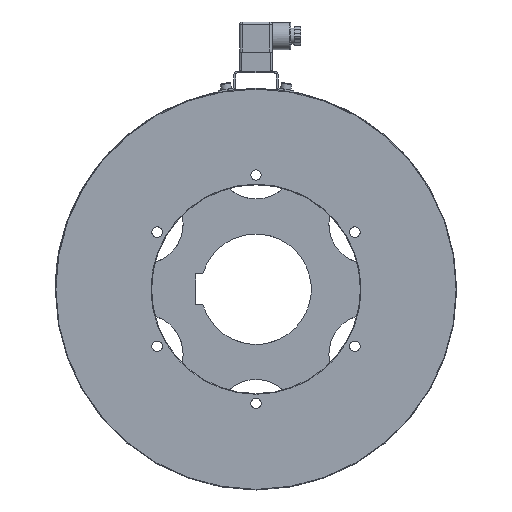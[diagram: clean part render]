
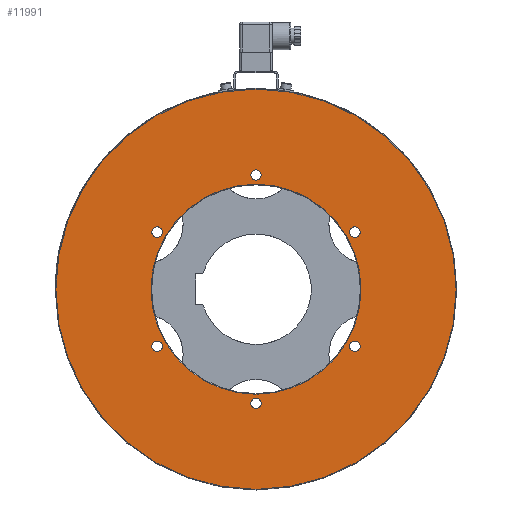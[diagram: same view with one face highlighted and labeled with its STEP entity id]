
A CAD part, left-side view. The second image highlights one B-rep face of the part: STEP entity #11991.
In plain terms, the highlighted planar face has unit normal (-1, 0, 0).
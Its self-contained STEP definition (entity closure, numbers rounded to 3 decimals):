
#151=FACE_BOUND('',#1258,.T.);
#152=FACE_BOUND('',#1259,.T.);
#153=FACE_BOUND('',#1260,.T.);
#154=FACE_BOUND('',#1261,.T.);
#155=FACE_BOUND('',#1262,.T.);
#156=FACE_BOUND('',#1263,.T.);
#157=FACE_BOUND('',#1264,.T.);
#318=PLANE('',#12794);
#617=FACE_OUTER_BOUND('',#1257,.T.);
#1257=EDGE_LOOP('',(#7955,#7956,#7957));
#1258=EDGE_LOOP('',(#7958,#7959));
#1259=EDGE_LOOP('',(#7960,#7961));
#1260=EDGE_LOOP('',(#7962,#7963));
#1261=EDGE_LOOP('',(#7964,#7965));
#1262=EDGE_LOOP('',(#7966,#7967));
#1263=EDGE_LOOP('',(#7968,#7969));
#1264=EDGE_LOOP('',(#7970));
#1932=CIRCLE('',#12558,163.);
#1933=CIRCLE('',#12559,163.);
#1984=CIRCLE('',#12671,163.);
#2075=CIRCLE('',#12768,85.5);
#2078=CIRCLE('',#12773,4.25);
#2079=CIRCLE('',#12774,4.25);
#2080=CIRCLE('',#12776,4.25);
#2081=CIRCLE('',#12777,4.25);
#2082=CIRCLE('',#12779,4.25);
#2083=CIRCLE('',#12780,4.25);
#2084=CIRCLE('',#12782,4.25);
#2085=CIRCLE('',#12783,4.25);
#2086=CIRCLE('',#12785,4.25);
#2087=CIRCLE('',#12786,4.25);
#2088=CIRCLE('',#12788,4.25);
#2089=CIRCLE('',#12789,4.25);
#4348=VERTEX_POINT('',#18379);
#4354=VERTEX_POINT('',#18391);
#4355=VERTEX_POINT('',#18393);
#4566=VERTEX_POINT('',#19139);
#4569=VERTEX_POINT('',#19149);
#4570=VERTEX_POINT('',#19150);
#4571=VERTEX_POINT('',#19155);
#4572=VERTEX_POINT('',#19156);
#4573=VERTEX_POINT('',#19161);
#4574=VERTEX_POINT('',#19162);
#4575=VERTEX_POINT('',#19167);
#4576=VERTEX_POINT('',#19168);
#4577=VERTEX_POINT('',#19173);
#4578=VERTEX_POINT('',#19174);
#4579=VERTEX_POINT('',#19179);
#4580=VERTEX_POINT('',#19180);
#5603=EDGE_CURVE('',#4355,#4354,#1932,.T.);
#5604=EDGE_CURVE('',#4348,#4355,#1933,.T.);
#5779=EDGE_CURVE('',#4354,#4348,#1984,.T.);
#5877=EDGE_CURVE('',#4566,#4566,#2075,.T.);
#5881=EDGE_CURVE('',#4569,#4570,#2078,.T.);
#5882=EDGE_CURVE('',#4570,#4569,#2079,.T.);
#5884=EDGE_CURVE('',#4571,#4572,#2080,.T.);
#5885=EDGE_CURVE('',#4572,#4571,#2081,.T.);
#5887=EDGE_CURVE('',#4573,#4574,#2082,.T.);
#5888=EDGE_CURVE('',#4574,#4573,#2083,.T.);
#5890=EDGE_CURVE('',#4575,#4576,#2084,.T.);
#5891=EDGE_CURVE('',#4576,#4575,#2085,.T.);
#5893=EDGE_CURVE('',#4577,#4578,#2086,.T.);
#5894=EDGE_CURVE('',#4578,#4577,#2087,.T.);
#5896=EDGE_CURVE('',#4579,#4580,#2088,.T.);
#5897=EDGE_CURVE('',#4580,#4579,#2089,.T.);
#7955=ORIENTED_EDGE('',*,*,#5603,.T.);
#7956=ORIENTED_EDGE('',*,*,#5779,.T.);
#7957=ORIENTED_EDGE('',*,*,#5604,.T.);
#7958=ORIENTED_EDGE('',*,*,#5896,.T.);
#7959=ORIENTED_EDGE('',*,*,#5897,.T.);
#7960=ORIENTED_EDGE('',*,*,#5893,.T.);
#7961=ORIENTED_EDGE('',*,*,#5894,.T.);
#7962=ORIENTED_EDGE('',*,*,#5890,.T.);
#7963=ORIENTED_EDGE('',*,*,#5891,.T.);
#7964=ORIENTED_EDGE('',*,*,#5887,.T.);
#7965=ORIENTED_EDGE('',*,*,#5888,.T.);
#7966=ORIENTED_EDGE('',*,*,#5884,.T.);
#7967=ORIENTED_EDGE('',*,*,#5885,.T.);
#7968=ORIENTED_EDGE('',*,*,#5881,.T.);
#7969=ORIENTED_EDGE('',*,*,#5882,.T.);
#7970=ORIENTED_EDGE('',*,*,#5877,.F.);
#11991=ADVANCED_FACE('',(#617,#151,#152,#153,#154,#155,#156,#157),#318,
 .T.);
#12558=AXIS2_PLACEMENT_3D('',#18394,#14289,#14290);
#12559=AXIS2_PLACEMENT_3D('',#18395,#14291,#14292);
#12671=AXIS2_PLACEMENT_3D('',#18913,#14615,#14616);
#12768=AXIS2_PLACEMENT_3D('',#19141,#14815,#14816);
#12773=AXIS2_PLACEMENT_3D('',#19151,#14826,#14827);
#12774=AXIS2_PLACEMENT_3D('',#19152,#14828,#14829);
#12776=AXIS2_PLACEMENT_3D('',#19157,#14833,#14834);
#12777=AXIS2_PLACEMENT_3D('',#19158,#14835,#14836);
#12779=AXIS2_PLACEMENT_3D('',#19163,#14840,#14841);
#12780=AXIS2_PLACEMENT_3D('',#19164,#14842,#14843);
#12782=AXIS2_PLACEMENT_3D('',#19169,#14847,#14848);
#12783=AXIS2_PLACEMENT_3D('',#19170,#14849,#14850);
#12785=AXIS2_PLACEMENT_3D('',#19175,#14854,#14855);
#12786=AXIS2_PLACEMENT_3D('',#19176,#14856,#14857);
#12788=AXIS2_PLACEMENT_3D('',#19181,#14861,#14862);
#12789=AXIS2_PLACEMENT_3D('',#19182,#14863,#14864);
#12794=AXIS2_PLACEMENT_3D('',#19190,#14874,#14875);
#14289=DIRECTION('center_axis',(-1.,0.,0.));
#14290=DIRECTION('ref_axis',(0.,1.,0.));
#14291=DIRECTION('center_axis',(-1.,0.,0.));
#14292=DIRECTION('ref_axis',(0.,1.,0.));
#14615=DIRECTION('center_axis',(-1.,0.,0.));
#14616=DIRECTION('ref_axis',(0.,1.,0.));
#14815=DIRECTION('center_axis',(-1.,0.,0.));
#14816=DIRECTION('ref_axis',(0.,-1.,0.));
#14826=DIRECTION('center_axis',(1.,0.,0.));
#14827=DIRECTION('ref_axis',(0.,0.,
1.));
#14828=DIRECTION('center_axis',(1.,0.,0.));
#14829=DIRECTION('ref_axis',(0.,0.,
1.));
#14833=DIRECTION('center_axis',(1.,0.,0.));
#14834=DIRECTION('ref_axis',(0.,0.,
1.));
#14835=DIRECTION('center_axis',(1.,0.,0.));
#14836=DIRECTION('ref_axis',(0.,0.,
1.));
#14840=DIRECTION('center_axis',(1.,0.,0.));
#14841=DIRECTION('ref_axis',(0.,0.,
1.));
#14842=DIRECTION('center_axis',(1.,0.,0.));
#14843=DIRECTION('ref_axis',(0.,0.,
1.));
#14847=DIRECTION('center_axis',(1.,0.,0.));
#14848=DIRECTION('ref_axis',(0.,0.,
1.));
#14849=DIRECTION('center_axis',(1.,0.,0.));
#14850=DIRECTION('ref_axis',(0.,0.,
1.));
#14854=DIRECTION('center_axis',(1.,0.,0.));
#14855=DIRECTION('ref_axis',(0.,0.,
1.));
#14856=DIRECTION('center_axis',(1.,0.,0.));
#14857=DIRECTION('ref_axis',(0.,0.,
1.));
#14861=DIRECTION('center_axis',(1.,0.,0.));
#14862=DIRECTION('ref_axis',(0.,0.,
1.));
#14863=DIRECTION('center_axis',(1.,0.,0.));
#14864=DIRECTION('ref_axis',(0.,0.,
1.));
#14874=DIRECTION('center_axis',(-1.,0.,0.));
#14875=DIRECTION('ref_axis',(0.,0.,
1.));
#18379=CARTESIAN_POINT('',(-33.8,28.305,160.524));
#18391=CARTESIAN_POINT('',(-33.8,-163.,0.));
#18393=CARTESIAN_POINT('',(-33.8,163.,0.));
#18394=CARTESIAN_POINT('Origin',(-33.8,0.,0.));
#18395=CARTESIAN_POINT('Origin',(-33.8,0.,0.));
#18913=CARTESIAN_POINT('Origin',(-33.8,0.,0.));
#19139=CARTESIAN_POINT('',(-33.8,85.5,0.));
#19141=CARTESIAN_POINT('Origin',(-33.8,0.,0.));
#19149=CARTESIAN_POINT('',(-33.8,-80.54,50.75));
#19150=CARTESIAN_POINT('',(-33.8,-80.54,42.25));
#19151=CARTESIAN_POINT('Origin',(-33.8,-80.54,46.5));
#19152=CARTESIAN_POINT('Origin',(-33.8,-80.54,46.5));
#19155=CARTESIAN_POINT('',(-33.8,0.,-88.75));
#19156=CARTESIAN_POINT('',(-33.8,0.,-97.25));
#19157=CARTESIAN_POINT('Origin',(-33.8,0.,-93.));
#19158=CARTESIAN_POINT('Origin',(-33.8,0.,-93.));
#19161=CARTESIAN_POINT('',(-33.8,80.54,50.75));
#19162=CARTESIAN_POINT('',(-33.8,80.54,42.25));
#19163=CARTESIAN_POINT('Origin',(-33.8,80.54,46.5));
#19164=CARTESIAN_POINT('Origin',(-33.8,80.54,46.5));
#19167=CARTESIAN_POINT('',(-33.8,0.,97.25));
#19168=CARTESIAN_POINT('',(-33.8,0.,88.75));
#19169=CARTESIAN_POINT('Origin',(-33.8,0.,93.));
#19170=CARTESIAN_POINT('Origin',(-33.8,0.,93.));
#19173=CARTESIAN_POINT('',(-33.8,80.54,-42.25));
#19174=CARTESIAN_POINT('',(-33.8,80.54,-50.75));
#19175=CARTESIAN_POINT('Origin',(-33.8,80.54,-46.5));
#19176=CARTESIAN_POINT('Origin',(-33.8,80.54,-46.5));
#19179=CARTESIAN_POINT('',(-33.8,-80.54,-42.25));
#19180=CARTESIAN_POINT('',(-33.8,-80.54,-50.75));
#19181=CARTESIAN_POINT('Origin',(-33.8,-80.54,-46.5));
#19182=CARTESIAN_POINT('Origin',(-33.8,-80.54,-46.5));
#19190=CARTESIAN_POINT('Origin',(-33.8,124.,0.));
